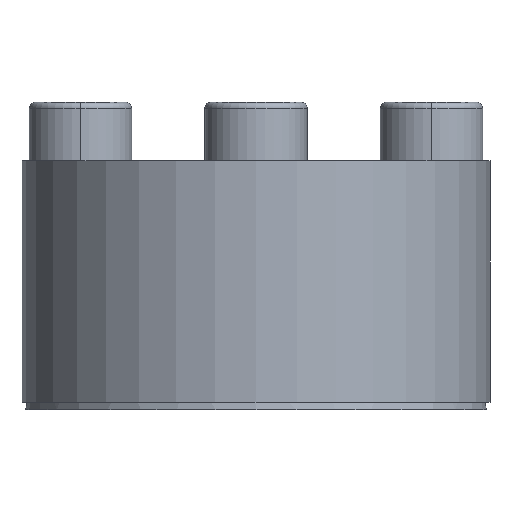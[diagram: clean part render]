
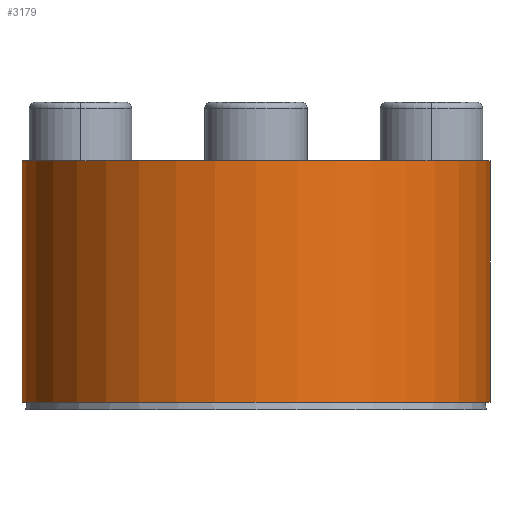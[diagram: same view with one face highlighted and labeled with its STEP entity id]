
A CAD part, front view. The second image highlights one B-rep face of the part: STEP entity #3179.
In plain terms, the highlighted cylindrical face has radius 16 mm (diameter 32 mm), a partial arc.
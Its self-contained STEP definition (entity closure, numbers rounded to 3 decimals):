
#97 = ORIENTED_EDGE ( 'NONE', *, *, #7117, .F. ) ;
#256 = EDGE_LOOP ( 'NONE', ( #97, #2700, #2526, #267 ) ) ;
#261 = DIRECTION ( 'NONE',  ( 0., 0., -1. ) ) ;
#267 = ORIENTED_EDGE ( 'NONE', *, *, #3047, .T. ) ;
#319 = CARTESIAN_POINT ( 'NONE',  ( 16., 0., 17.009 ) ) ;
#747 = AXIS2_PLACEMENT_3D ( 'NONE', #3577, #261, #4128 ) ;
#1082 = CARTESIAN_POINT ( 'NONE',  ( 16., 0., 0.509 ) ) ;
#1114 = DIRECTION ( 'NONE',  ( 0., 0., 1. ) ) ;
#1497 = DIRECTION ( 'NONE',  ( 1., 0., 0. ) ) ;
#1776 = VERTEX_POINT ( 'NONE', #5682 ) ;
#2170 = FACE_OUTER_BOUND ( 'NONE', #256, .T. ) ;
#2510 = VERTEX_POINT ( 'NONE', #319 ) ;
#2526 = ORIENTED_EDGE ( 'NONE', *, *, #3800, .T. ) ;
#2694 = DIRECTION ( 'NONE',  ( 0., 0., 1. ) ) ;
#2700 = ORIENTED_EDGE ( 'NONE', *, *, #4916, .F. ) ;
#2733 = LINE ( 'NONE', #1082, #6792 ) ;
#2880 = CARTESIAN_POINT ( 'NONE',  ( 0., 0., 0.509 ) ) ;
#3047 = EDGE_CURVE ( 'NONE', #2510, #3762, #5775, .T. ) ;
#3179 = ADVANCED_FACE ( 'NONE', ( #2170 ), #7149, .T. ) ;
#3263 = VECTOR ( 'NONE', #1114, 1000. ) ;
#3340 = CARTESIAN_POINT ( 'NONE',  ( -16., 0., 0.509 ) ) ;
#3449 = DIRECTION ( 'NONE',  ( -1., 0., 0. ) ) ;
#3577 = CARTESIAN_POINT ( 'NONE',  ( 0., 0., 17.009 ) ) ;
#3762 = VERTEX_POINT ( 'NONE', #5476 ) ;
#3800 = EDGE_CURVE ( 'NONE', #1776, #2510, #2733, .T. ) ;
#4128 = DIRECTION ( 'NONE',  ( -1., 0., 0. ) ) ;
#4816 = CIRCLE ( 'NONE', #6995, 16. ) ;
#4916 = EDGE_CURVE ( 'NONE', #1776, #5737, #4816, .T. ) ;
#5340 = CARTESIAN_POINT ( 'NONE',  ( 0., 0., 0.509 ) ) ;
#5476 = CARTESIAN_POINT ( 'NONE',  ( -16., 0., 17.009 ) ) ;
#5682 = CARTESIAN_POINT ( 'NONE',  ( 16., 0., 0.509 ) ) ;
#5737 = VERTEX_POINT ( 'NONE', #6131 ) ;
#5775 = CIRCLE ( 'NONE', #747, 16. ) ;
#5839 = AXIS2_PLACEMENT_3D ( 'NONE', #5340, #6442, #1497 ) ;
#5843 = LINE ( 'NONE', #3340, #3263 ) ;
#6131 = CARTESIAN_POINT ( 'NONE',  ( -16., 0., 0.509 ) ) ;
#6442 = DIRECTION ( 'NONE',  ( 0., 0., 1. ) ) ;
#6745 = DIRECTION ( 'NONE',  ( 0., 0., -1. ) ) ;
#6792 = VECTOR ( 'NONE', #2694, 1000. ) ;
#6995 = AXIS2_PLACEMENT_3D ( 'NONE', #2880, #6745, #3449 ) ;
#7117 = EDGE_CURVE ( 'NONE', #5737, #3762, #5843, .T. ) ;
#7149 = CYLINDRICAL_SURFACE ( 'NONE', #5839, 16. ) ;
